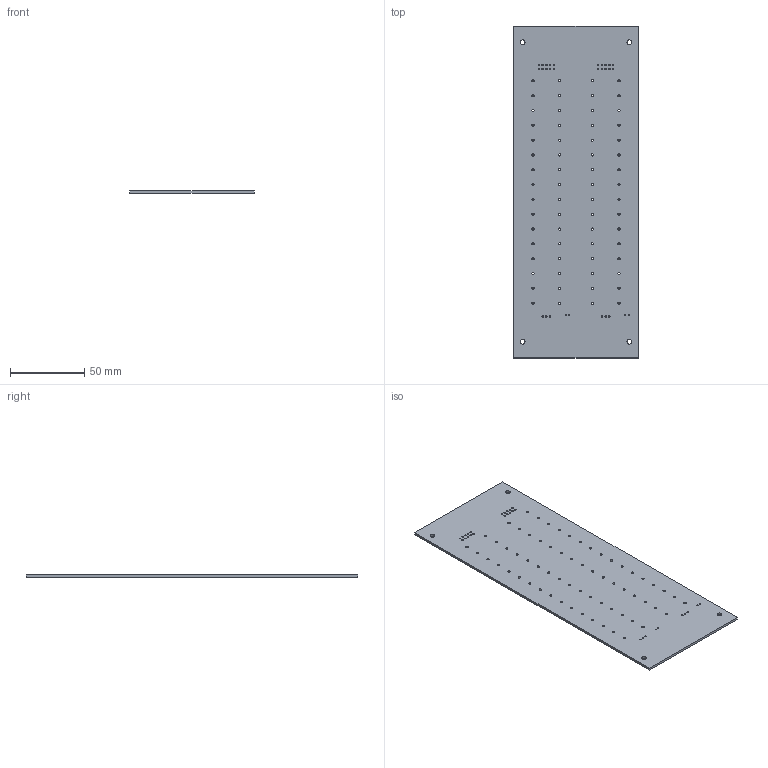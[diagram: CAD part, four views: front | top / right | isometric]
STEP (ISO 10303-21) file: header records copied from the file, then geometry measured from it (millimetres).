
FILE_DESCRIPTION((''),'2;1');
FILE_NAME('PCB32_R1','2026-10-06T14:40:36',('line0'),(''),'CREO PARAMETRIC BY PTC INC, 2024344','CREO PARAMETRIC BY PTC INC, 2024344','');
FILE_SCHEMA(('CONFIG_CONTROL_DESIGN'));
Length unit declared in the file: millimetre
Products named in the file (1): PCB32_R1
Bounding box: 84 x 224 x 1.6 mm (x, y, z)
Volume: 29837.3 mm3; surface area: 38975.9 mm2
Topology: 1 solids, 1 shells, 202 faces, 600 edges, 400 vertices
Faces by surface type: cylinder 196, plane 6
Entity records: 7446 total; most frequent: DIRECTION 1396, CARTESIAN_POINT 1202, ORIENTED_EDGE 1200, EDGE_CURVE 600, AXIS2_PLACEMENT_3D 594, VERTEX_POINT 400, EDGE_LOOP 398, CIRCLE 392
